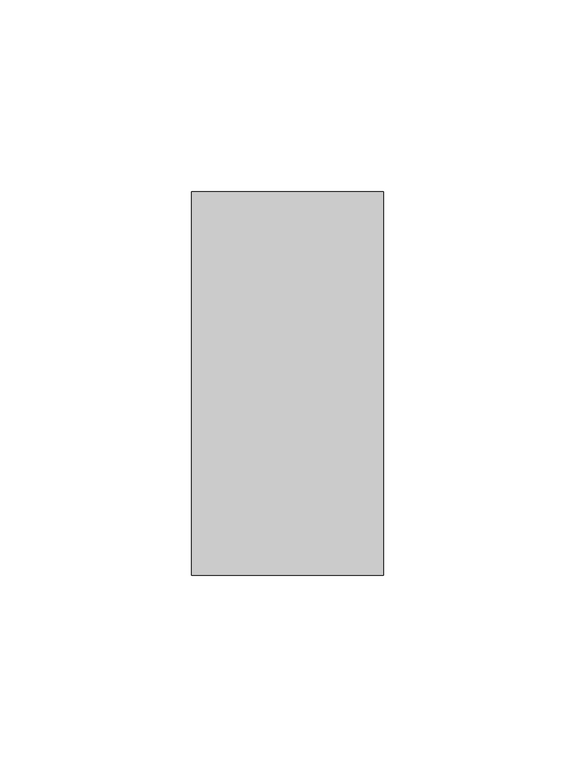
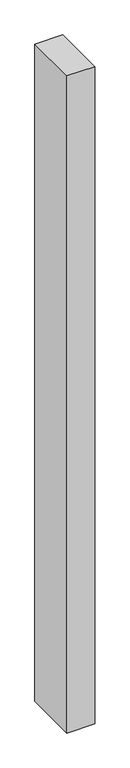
"""IFC4 building model written with IfcOpenShell, lengths in millimetres: member geometry, Meneaux de murs-rideaux - Meneau rectangulaire - 10 x 25mm (10)."""

from ifc_helpers import new_model, si_unit, frame, origin, place, context, project, spatial, polyline, outline, extrude, source, transform, mapped, element, save


def member_29740ae2(model_context):
    return source(origin(), model_context, "Body", "SweptSolid", [
        extrude(outline(polyline([(-50.0, 50.0), (0.0, 50.0), (0.0, -50.0), (-50.0, -50.0), (-50.0, 50.0)])), frame((0.0, 0.0, -1250.0), z_axis=(0.0, 0.0, 1.0), x_axis=(1.0, 0.0, 0.0)), (0.0, 0.0, 1.0), 1250.0),
    ])


if __name__ == "__main__":
    model = new_model("IFC4")
    model_context = context("Model", 3, world=origin())
    ifc_project = project(units=[si_unit("LENGTHUNIT", "METRE", prefix="MILLI")], contexts=[model_context])
    site = spatial("IfcSite", under=ifc_project)
    building = spatial("IfcBuilding", under=site)
    placement = place(None, origin())
    member_shape = member_29740ae2(model_context)
    element("IfcMember", 1, ObjectType="Meneaux de murs-rideaux - Meneau rectangulaire - 10 x 25mm (10)", at=placement, inside=building, context=model_context, shape_type="MappedRepresentation", body=[
        mapped(member_shape, transform((0.0, 0.0, 0.0), x_axis=(1.0, 0.0, 0.0), y_axis=(0.0, 1.0, 0.0), z_axis=(0.0, 0.0, 1.0))),
    ])
    save(model, "model.ifc")
